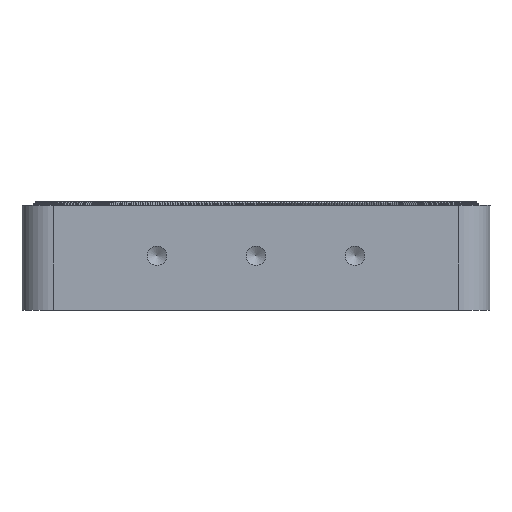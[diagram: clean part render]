
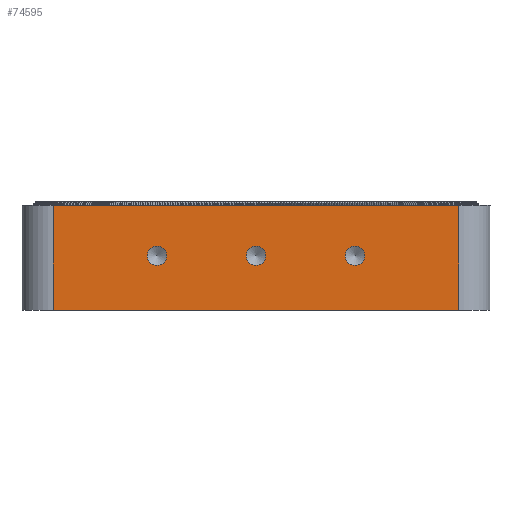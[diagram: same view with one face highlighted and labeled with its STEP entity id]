
A CAD part, front view. The second image highlights one B-rep face of the part: STEP entity #74595.
In plain terms, the highlighted planar face has unit normal (0, -1, 0).
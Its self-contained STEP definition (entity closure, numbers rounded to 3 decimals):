
#8409=LINE($,#131562,#15148);
#8442=LINE($,#131751,#15181);
#8445=LINE($,#131758,#15184);
#8446=LINE($,#131760,#15185);
#15148=VECTOR($,#96473,104.);
#15181=VECTOR($,#96684,26.9);
#15184=VECTOR($,#96691,104.);
#15185=VECTOR($,#96694,26.9);
#18710=PLANE($,#79747);
#19534=FACE_BOUND($,#27454,.T.);
#19535=FACE_BOUND($,#27455,.T.);
#19536=FACE_BOUND($,#27456,.T.);
#19537=FACE_BOUND($,#27457,.T.);
#27454=EDGE_LOOP($,(#69909));
#27455=EDGE_LOOP($,(#69910));
#27456=EDGE_LOOP($,(#69911));
#27457=EDGE_LOOP($,(#69912,#69913,#69914,#69915));
#29451=CIRCLE($,#79729,2.489);
#29453=CIRCLE($,#79733,2.489);
#29455=CIRCLE($,#79737,2.489);
#36779=VERTEX_POINT($,#131559);
#36780=VERTEX_POINT($,#131561);
#36840=VERTEX_POINT($,#131722);
#36842=VERTEX_POINT($,#131728);
#36844=VERTEX_POINT($,#131734);
#36846=VERTEX_POINT($,#131747);
#36849=VERTEX_POINT($,#131754);
#47827=EDGE_CURVE($,#36779,#36780,#8409,.T.);
#47901=EDGE_CURVE($,#36840,#36840,#29451,.T.);
#47903=EDGE_CURVE($,#36842,#36842,#29453,.T.);
#47905=EDGE_CURVE($,#36844,#36844,#29455,.T.);
#47913=EDGE_CURVE($,#36780,#36846,#8442,.T.);
#47917=EDGE_CURVE($,#36849,#36846,#8445,.T.);
#47918=EDGE_CURVE($,#36849,#36779,#8446,.T.);
#69909=ORIENTED_EDGE($,*,*,#47901,.T.);
#69910=ORIENTED_EDGE($,*,*,#47903,.T.);
#69911=ORIENTED_EDGE($,*,*,#47905,.T.);
#69912=ORIENTED_EDGE($,*,*,#47918,.F.);
#69913=ORIENTED_EDGE($,*,*,#47917,.T.);
#69914=ORIENTED_EDGE($,*,*,#47913,.F.);
#69915=ORIENTED_EDGE($,*,*,#47827,.F.);
#74595=ADVANCED_FACE($,(#19534,#19535,#19536,#19537),#18710,.T.);
#79729=AXIS2_PLACEMENT_3D($,#131723,#96647,#96648);
#79733=AXIS2_PLACEMENT_3D($,#131729,#96655,#96656);
#79737=AXIS2_PLACEMENT_3D($,#131735,#96663,#96664);
#79747=AXIS2_PLACEMENT_3D($,#131759,#96692,#96693);
#96473=DIRECTION($,(-1.,0.,0.));
#96647=DIRECTION('center_axis',(0.,1.,0.));
#96648=DIRECTION('ref_axis',(1.,0.,0.));
#96655=DIRECTION('center_axis',(0.,1.,0.));
#96656=DIRECTION('ref_axis',(1.,0.,0.));
#96663=DIRECTION('center_axis',(0.,1.,0.));
#96664=DIRECTION('ref_axis',(1.,0.,0.));
#96684=DIRECTION($,(0.,0.,1.));
#96691=DIRECTION($,(-1.,0.,0.));
#96692=DIRECTION('center_axis',(0.,-1.,0.));
#96693=DIRECTION('ref_axis',(0.,0.,-1.));
#96694=DIRECTION($,(0.,0.,-1.));
#131559=CARTESIAN_POINT('',(40.028,-70.594,-13.2));
#131561=CARTESIAN_POINT('',(-63.972,-70.594,-13.2));
#131562=CARTESIAN_POINT($,(48.028,-70.594,-13.2));
#131722=CARTESIAN_POINT('',(15.917,-70.594,0.8));
#131723=CARTESIAN_POINT('Origin',(13.428,-70.594,0.8));
#131728=CARTESIAN_POINT('',(-9.483,-70.594,0.8));
#131729=CARTESIAN_POINT('Origin',(-11.972,-70.594,0.8));
#131734=CARTESIAN_POINT('',(-34.883,-70.594,0.8));
#131735=CARTESIAN_POINT('Origin',(-37.372,-70.594,0.8));
#131747=CARTESIAN_POINT('',(-63.972,-70.594,13.7));
#131751=CARTESIAN_POINT($,(-63.972,-70.594,-13.2));
#131754=CARTESIAN_POINT('',(40.028,-70.594,13.7));
#131758=CARTESIAN_POINT($,(48.028,-70.594,13.7));
#131759=CARTESIAN_POINT('Origin',(48.028,-70.594,-13.2));
#131760=CARTESIAN_POINT($,(40.028,-70.594,-13.2));
